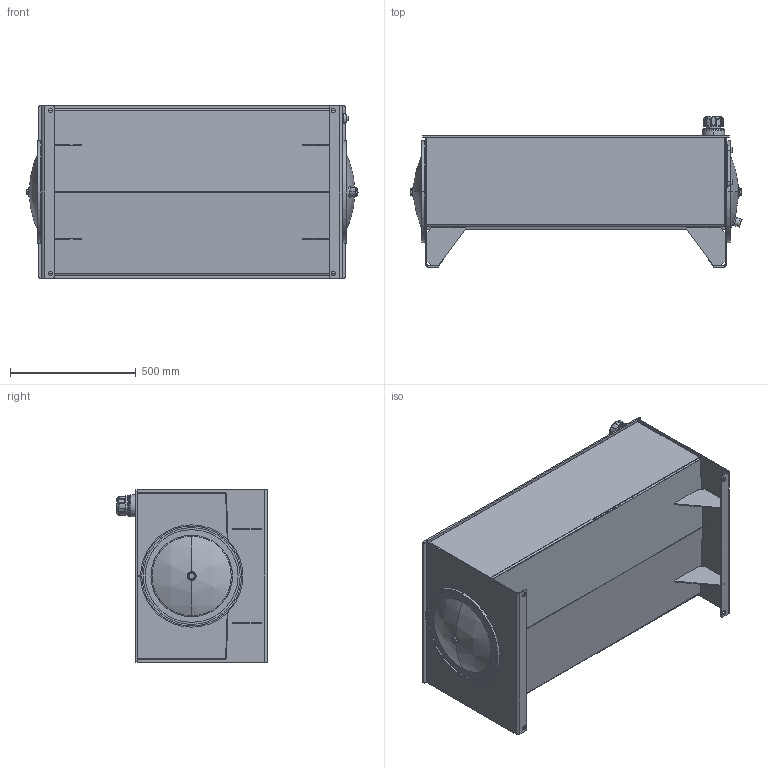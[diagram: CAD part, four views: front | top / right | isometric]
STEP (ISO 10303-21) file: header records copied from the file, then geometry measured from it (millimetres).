
FILE_DESCRIPTION (( 'STEP AP203' ), '1' );
FILE_NAME ('RJIC060-FT.STEP', '2015-01-07T16:43:15', ( '' ), ( '' ), 'SwSTEP 2.0', 'SolidWorks 2014', '' );
FILE_SCHEMA (( 'CONFIG_CONTROL_DESIGN' ));
Length unit declared in the file: inch
Products named in the file (1): RJIC060-FT
Bounding box: 1319.33 x 597.85 x 685.8 mm (x, y, z)
Volume: 16352827.1 mm3; surface area: 8054529.1 mm2
Topology: 24 solids, 24 shells, 741 faces, 1741 edges, 1052 vertices
Faces by surface type: cylinder 266, plane 248, cone 84, torus 63, bspline 48, sphere 32
Entity records: 24266 total; most frequent: CARTESIAN_POINT 6984, DIRECTION 3786, ORIENTED_EDGE 3458, EDGE_CURVE 1729, AXIS2_PLACEMENT_3D 1511, VERTEX_POINT 1052, EDGE_LOOP 849, CIRCLE 817
